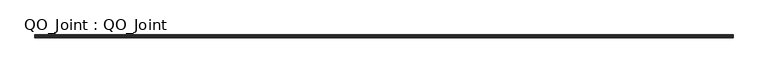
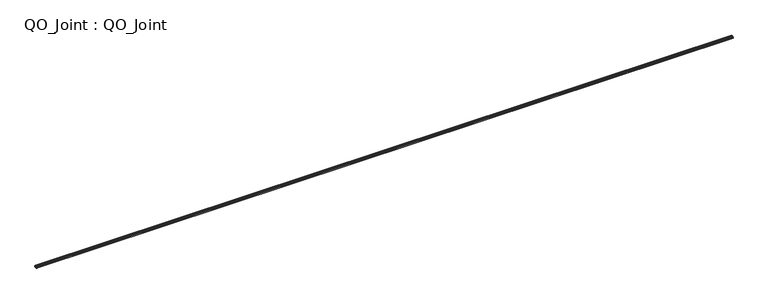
"""IFC4 building model written with IfcOpenShell, lengths in millimetres: beam geometry, QO_Joint : QO_Joint."""

from ifc_helpers import new_model, si_unit, point, frame, frame_2d, origin, place, context, project, spatial, polyline, circle_curve, trimmed, segment, composite_curve, outline, extrude, source, transform, mapped, element, save


def qo_joint_qo_joint_871b31b3(model_context):
    return source(origin(), model_context, "Body", "SweptSolid", [
        extrude(outline(composite_curve([segment(polyline([(0.6475876, 34.6160805), (0.6475876, 25.5027713), (8.3158634, 25.5027713), (9.8478388, 24.5783623)]), True, "CONTINUOUS"), segment(trimmed(circle_curve(frame_2d((9.6876801, 24.3129396)), 0.31), [point((9.8478388, 24.5783623))], [point((9.6876801, 24.0029396))], False, "CARTESIAN"), True, "CONTINUOUS"), segment(polyline([(9.6876801, 24.0029396), (-9.6923428, 24.0029396)]), True, "CONTINUOUS"), segment(trimmed(circle_curve(frame_2d((-9.6923428, 24.3129396)), 0.31), [point((-9.6923428, 24.0029396))], [point((-9.8525015, 24.5783623))], False, "CARTESIAN"), True, "CONTINUOUS"), segment(polyline([(-9.8525015, 24.5783623), (-8.3205261, 25.5027713), (-0.6524124, 25.5027713), (-0.6524124, 34.6160805), (-2.1674381, 34.6160805), (-0.3546092, 35.9759407), (-0.3546092, 36.7759407), (-2.3561345, 36.7759407), (-2.3561345, 34.317153), (-1.2879019, 34.317153), (-1.2879019, 26.5392087)]), True, "CONTINUOUS"), segment(trimmed(circle_curve(frame_2d((-1.7872786, 26.5150144)), 0.4999625), [point((-1.2879019, 26.5392087))], [point((-1.7872786, 26.0150519))], False, "CARTESIAN"), True, "CONTINUOUS"), segment(polyline([(-1.7872786, 26.0150519), (-12.5010847, 26.0150519), (-12.5010847, 36.190378)]), True, "CONTINUOUS"), segment(trimmed(circle_curve(frame_2d((-11.9010847, 36.190378)), 0.6), [point((-12.5010847, 36.190378))], [point((-11.9010847, 36.790378))], False, "CARTESIAN"), True, "CONTINUOUS"), segment(polyline([(-11.9010847, 36.790378), (-6.362561, 36.790378), (-6.362561, 39.6058207), (-8.961162, 39.6058207), (-7.4224126, 43.8493822), (-4.3991903, 40.3004498), (4.3943655, 40.3004498), (7.4175879, 43.8493822), (8.9563372, 39.6058207), (6.3577362, 39.6058207), (6.3577362, 36.790378), (11.8962599, 36.790378)]), True, "CONTINUOUS"), segment(trimmed(circle_curve(frame_2d((11.8962599, 36.190378)), 0.6), [point((11.8962599, 36.790378))], [point((12.4962599, 36.190378))], False, "CARTESIAN"), True, "CONTINUOUS"), segment(polyline([(12.4962599, 36.190378), (12.4962599, 26.0150519), (1.7824538, 26.0150519)]), True, "CONTINUOUS"), segment(trimmed(circle_curve(frame_2d((1.7824538, 26.5150144)), 0.4999625), [point((1.7824538, 26.0150519))], [point((1.2830771, 26.5392087))], False, "CARTESIAN"), True, "CONTINUOUS"), segment(polyline([(1.2830771, 26.5392087), (1.2830771, 34.317153), (2.3513097, 34.317153), (2.3513097, 36.7759407), (0.3497844, 36.7759407), (0.3497844, 35.9759407), (2.1626133, 34.6160805), (0.6475876, 34.6160805)]), True, "CONTINUOUS")], self_intersect=False)), frame((-199.8006178, 0.0, 0.0), z_axis=(1.0, 0.0, 0.0), x_axis=(0.0, 1.0, 0.0)), (0.0, 0.0, 1.0), 6471.1506181),
    ])


if __name__ == "__main__":
    model = new_model("IFC4")
    model_context = context("Model", 3, world=origin())
    ifc_project = project(units=[si_unit("LENGTHUNIT", "METRE", prefix="MILLI")], contexts=[model_context])
    site = spatial("IfcSite", under=ifc_project)
    building = spatial("IfcBuilding", under=site)
    placement = place(None, origin())
    qo_joint_qo_joint_shape = qo_joint_qo_joint_871b31b3(model_context)
    element("IfcBeam", 1, ObjectType="QO_Joint : QO_Joint", at=placement, inside=building, context=model_context, shape_type="MappedRepresentation", body=[
        mapped(qo_joint_qo_joint_shape, transform((0.0, 0.0, 0.0), x_axis=(1.0, 0.0, 0.0), y_axis=(0.0, 1.0, 0.0), z_axis=(0.0, 0.0, 1.0))),
    ])
    save(model, "model.ifc")
